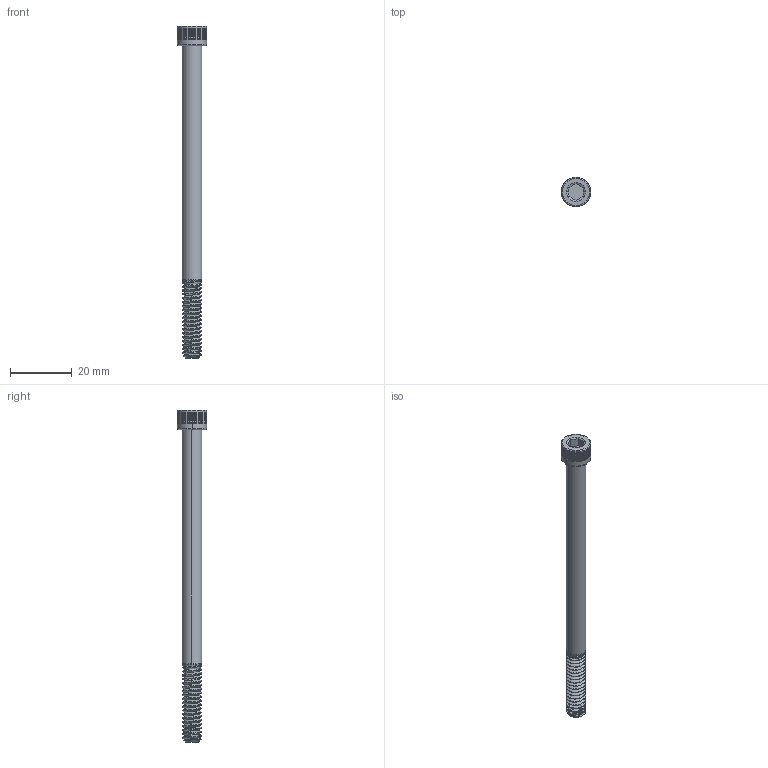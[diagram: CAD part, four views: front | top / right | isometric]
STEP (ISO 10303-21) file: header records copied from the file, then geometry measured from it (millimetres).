
FILE_DESCRIPTION (( 'STEP AP214' ), '1' );
FILE_NAME ('91251A558_Black-Oxide Alloy Steel Socket Head Screw.STEP', '2023-11-02T15:55:06', ( '' ), ( '' ), 'SwSTEP 2.0', 'SolidWorks 2023', '' );
FILE_SCHEMA (( 'AUTOMOTIVE_DESIGN' ));
Length unit declared in the file: metre
Products named in the file (1): 91251A558_Black-Oxide Alloy Steel Socket Head Screw
Bounding box: 9.53 x 9.53 x 107.95 mm (x, y, z)
Volume: 3501.3 mm3; surface area: 2679.9 mm2
Topology: 1 solids, 1 shells, 422 faces, 1096 edges, 728 vertices
Faces by surface type: plane 210, cone 109, cylinder 94, torus 6, bspline 3
Entity records: 16241 total; most frequent: CARTESIAN_POINT 5830, ORIENTED_EDGE 2192, DIRECTION 2155, EDGE_CURVE 1096, AXIS2_PLACEMENT_3D 746, VERTEX_POINT 728, LINE 663, VECTOR 663
